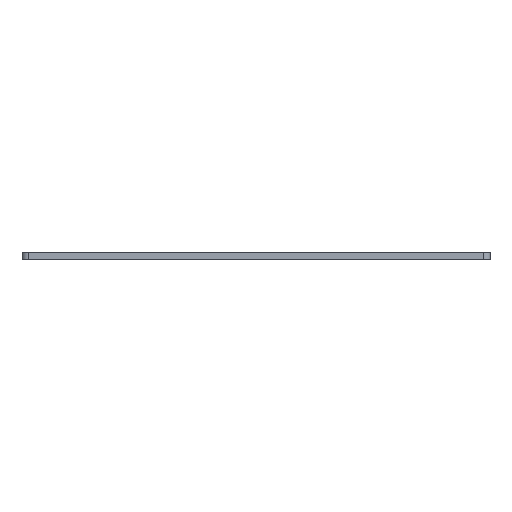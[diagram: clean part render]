
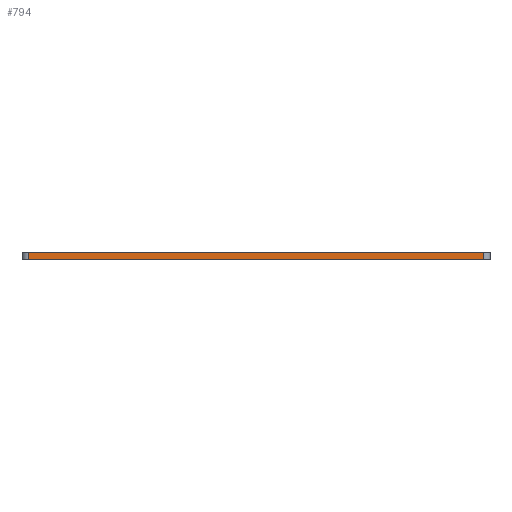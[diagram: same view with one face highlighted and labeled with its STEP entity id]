
A CAD part, front view. The second image highlights one B-rep face of the part: STEP entity #794.
In plain terms, the highlighted planar face has unit normal (0, -1, 0).
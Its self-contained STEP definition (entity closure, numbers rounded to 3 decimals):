
#44 = PLANE('',#45);
#45 = AXIS2_PLACEMENT_3D('',#46,#47,#48);
#46 = CARTESIAN_POINT('',(0.,-160.,80.));
#47 = DIRECTION('',(0.,0.,1.));
#48 = DIRECTION('',(1.,0.,0.));
#72 = CYLINDRICAL_SURFACE('',#73,3.);
#73 = AXIS2_PLACEMENT_3D('',#74,#75,#76);
#74 = CARTESIAN_POINT('',(3.,-157.,76.5));
#75 = DIRECTION('',(0.,0.,1.));
#76 = DIRECTION('',(-1.,-0.,0.));
#100 = PLANE('',#101);
#101 = AXIS2_PLACEMENT_3D('',#102,#103,#104);
#102 = CARTESIAN_POINT('',(0.,-160.,76.5));
#103 = DIRECTION('',(0.,0.,1.));
#104 = DIRECTION('',(1.,0.,0.));
#143 = VERTEX_POINT('',#144);
#144 = CARTESIAN_POINT('',(3.,-160.,80.));
#166 = EDGE_CURVE('',#143,#167,#169,.T.);
#167 = VERTEX_POINT('',#168);
#168 = CARTESIAN_POINT('',(217.,-160.,80.));
#169 = SURFACE_CURVE('',#170,(#174,#181),.PCURVE_S1.);
#170 = LINE('',#171,#172);
#171 = CARTESIAN_POINT('',(0.,-160.,80.));
#172 = VECTOR('',#173,1.);
#173 = DIRECTION('',(1.,0.,0.));
#174 = PCURVE('',#44,#175);
#175 = DEFINITIONAL_REPRESENTATION('',(#176),#180);
#176 = LINE('',#177,#178);
#177 = CARTESIAN_POINT('',(0.,0.));
#178 = VECTOR('',#179,1.);
#179 = DIRECTION('',(1.,0.));
#180 = ( GEOMETRIC_REPRESENTATION_CONTEXT(2) 
PARAMETRIC_REPRESENTATION_CONTEXT() REPRESENTATION_CONTEXT('2D SPACE',''
  ) );
#181 = PCURVE('',#182,#187);
#182 = PLANE('',#183);
#183 = AXIS2_PLACEMENT_3D('',#184,#185,#186);
#184 = CARTESIAN_POINT('',(0.,-160.,76.5));
#185 = DIRECTION('',(0.,1.,0.));
#186 = DIRECTION('',(0.,0.,1.));
#187 = DEFINITIONAL_REPRESENTATION('',(#188),#192);
#188 = LINE('',#189,#190);
#189 = CARTESIAN_POINT('',(3.5,0.));
#190 = VECTOR('',#191,1.);
#191 = DIRECTION('',(0.,1.));
#192 = ( GEOMETRIC_REPRESENTATION_CONTEXT(2) 
PARAMETRIC_REPRESENTATION_CONTEXT() REPRESENTATION_CONTEXT('2D SPACE',''
  ) );
#215 = CYLINDRICAL_SURFACE('',#216,3.);
#216 = AXIS2_PLACEMENT_3D('',#217,#218,#219);
#217 = CARTESIAN_POINT('',(217.,-157.,76.5));
#218 = DIRECTION('',(0.,0.,1.));
#219 = DIRECTION('',(1.,0.,-0.));
#466 = VERTEX_POINT('',#467);
#467 = CARTESIAN_POINT('',(3.,-160.,76.5));
#489 = EDGE_CURVE('',#466,#143,#490,.T.);
#490 = SURFACE_CURVE('',#491,(#495,#502),.PCURVE_S1.);
#491 = LINE('',#492,#493);
#492 = CARTESIAN_POINT('',(3.,-160.,76.5));
#493 = VECTOR('',#494,1.);
#494 = DIRECTION('',(0.,0.,1.));
#495 = PCURVE('',#72,#496);
#496 = DEFINITIONAL_REPRESENTATION('',(#497),#501);
#497 = LINE('',#498,#499);
#498 = CARTESIAN_POINT('',(1.571,0.));
#499 = VECTOR('',#500,1.);
#500 = DIRECTION('',(0.,1.));
#501 = ( GEOMETRIC_REPRESENTATION_CONTEXT(2) 
PARAMETRIC_REPRESENTATION_CONTEXT() REPRESENTATION_CONTEXT('2D SPACE',''
  ) );
#502 = PCURVE('',#182,#503);
#503 = DEFINITIONAL_REPRESENTATION('',(#504),#508);
#504 = LINE('',#505,#506);
#505 = CARTESIAN_POINT('',(0.,3.));
#506 = VECTOR('',#507,1.);
#507 = DIRECTION('',(1.,0.));
#508 = ( GEOMETRIC_REPRESENTATION_CONTEXT(2) 
PARAMETRIC_REPRESENTATION_CONTEXT() REPRESENTATION_CONTEXT('2D SPACE',''
  ) );
#571 = EDGE_CURVE('',#466,#572,#574,.T.);
#572 = VERTEX_POINT('',#573);
#573 = CARTESIAN_POINT('',(217.,-160.,76.5));
#574 = SURFACE_CURVE('',#575,(#579,#586),.PCURVE_S1.);
#575 = LINE('',#576,#577);
#576 = CARTESIAN_POINT('',(0.,-160.,76.5));
#577 = VECTOR('',#578,1.);
#578 = DIRECTION('',(1.,0.,0.));
#579 = PCURVE('',#100,#580);
#580 = DEFINITIONAL_REPRESENTATION('',(#581),#585);
#581 = LINE('',#582,#583);
#582 = CARTESIAN_POINT('',(0.,0.));
#583 = VECTOR('',#584,1.);
#584 = DIRECTION('',(1.,0.));
#585 = ( GEOMETRIC_REPRESENTATION_CONTEXT(2) 
PARAMETRIC_REPRESENTATION_CONTEXT() REPRESENTATION_CONTEXT('2D SPACE',''
  ) );
#586 = PCURVE('',#182,#587);
#587 = DEFINITIONAL_REPRESENTATION('',(#588),#592);
#588 = LINE('',#589,#590);
#589 = CARTESIAN_POINT('',(0.,0.));
#590 = VECTOR('',#591,1.);
#591 = DIRECTION('',(0.,1.));
#592 = ( GEOMETRIC_REPRESENTATION_CONTEXT(2) 
PARAMETRIC_REPRESENTATION_CONTEXT() REPRESENTATION_CONTEXT('2D SPACE',''
  ) );
#794 = ADVANCED_FACE('',(#795),#182,.F.);
#795 = FACE_BOUND('',#796,.F.);
#796 = EDGE_LOOP('',(#797,#798,#799,#800));
#797 = ORIENTED_EDGE('',*,*,#571,.F.);
#798 = ORIENTED_EDGE('',*,*,#489,.T.);
#799 = ORIENTED_EDGE('',*,*,#166,.T.);
#800 = ORIENTED_EDGE('',*,*,#801,.F.);
#801 = EDGE_CURVE('',#572,#167,#802,.T.);
#802 = SURFACE_CURVE('',#803,(#807,#814),.PCURVE_S1.);
#803 = LINE('',#804,#805);
#804 = CARTESIAN_POINT('',(217.,-160.,76.5));
#805 = VECTOR('',#806,1.);
#806 = DIRECTION('',(0.,0.,1.));
#807 = PCURVE('',#182,#808);
#808 = DEFINITIONAL_REPRESENTATION('',(#809),#813);
#809 = LINE('',#810,#811);
#810 = CARTESIAN_POINT('',(0.,217.));
#811 = VECTOR('',#812,1.);
#812 = DIRECTION('',(1.,0.));
#813 = ( GEOMETRIC_REPRESENTATION_CONTEXT(2) 
PARAMETRIC_REPRESENTATION_CONTEXT() REPRESENTATION_CONTEXT('2D SPACE',''
  ) );
#814 = PCURVE('',#215,#815);
#815 = DEFINITIONAL_REPRESENTATION('',(#816),#820);
#816 = LINE('',#817,#818);
#817 = CARTESIAN_POINT('',(-1.571,0.));
#818 = VECTOR('',#819,1.);
#819 = DIRECTION('',(-0.,1.));
#820 = ( GEOMETRIC_REPRESENTATION_CONTEXT(2) 
PARAMETRIC_REPRESENTATION_CONTEXT() REPRESENTATION_CONTEXT('2D SPACE',''
  ) );
